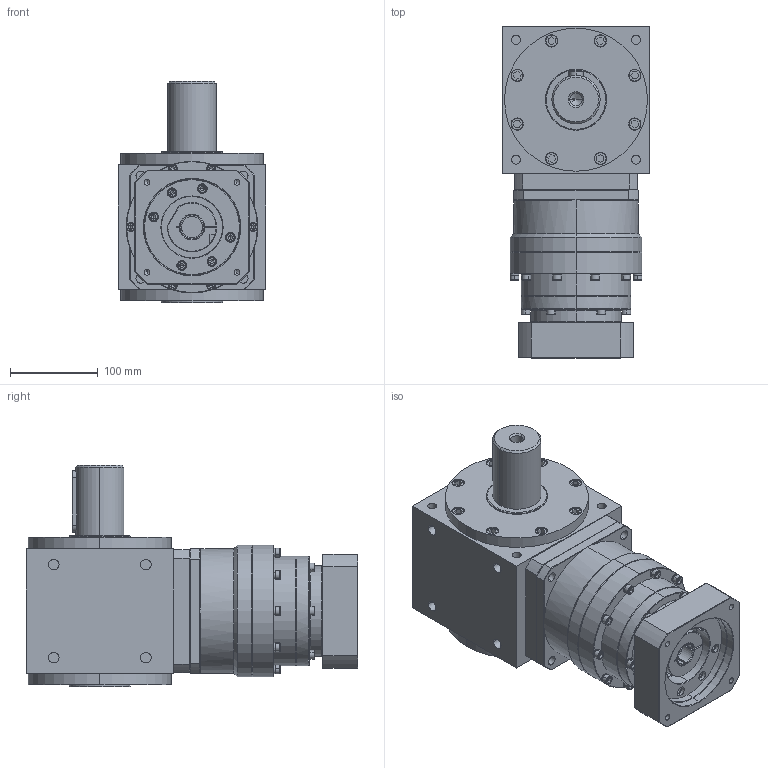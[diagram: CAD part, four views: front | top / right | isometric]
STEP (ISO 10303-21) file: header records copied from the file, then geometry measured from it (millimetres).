
FILE_DESCRIPTION (( 'STEP AP203' ), '1' );
FILE_NAME ('AAW165AS-L2-P 24-110-145-M8.STEP', '2024-12-16T09:10:39', ( '' ), ( '' ), 'SwSTEP 2.0', 'SolidWorks 2021', '' );
FILE_SCHEMA (( 'CONFIG_CONTROL_DESIGN' ));
Length unit declared in the file: millimetre
Products named in the file (3): AAW165AS-L2-P 24-110-145-M8; AAW165AS-P; KS142L2-110-24-62-M8-145俋倛芞
Assembly tree (2 placements, depth 2):
  AAW165AS-L2-P 24-110-145-M8
    AAW165AS-P
    KS142L2-110-24-62-M8-145俋倛芞
Bounding box: 168 x 378 x 252 mm (x, y, z)
Volume: 7968527.9 mm3; surface area: 526669.8 mm2
Topology: 52 solids, 52 shells, 1657 faces, 3919 edges, 2445 vertices
Faces by surface type: plane 769, cylinder 595, cone 241, bspline 52
Entity records: 48568 total; most frequent: CARTESIAN_POINT 9936, DIRECTION 8419, ORIENTED_EDGE 7650, EDGE_CURVE 3825, AXIS2_PLACEMENT_3D 3240, VERTEX_POINT 2445, LINE 1939, VECTOR 1939
